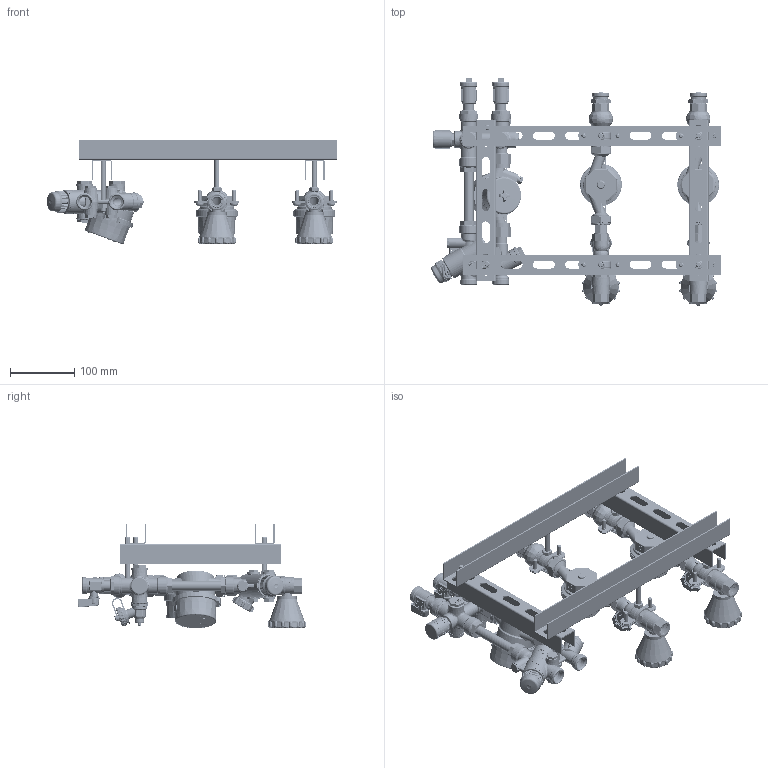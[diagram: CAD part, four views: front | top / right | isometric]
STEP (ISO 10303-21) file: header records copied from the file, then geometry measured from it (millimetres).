
FILE_DESCRIPTION(('STEP AP242'), '1');
FILE_NAME('覆.494726.014.000 捘 - VT.LB.V0.M0', '', ('UNSPECIFIED'), ('UNSPECIFIED'), 'C3D Converter', 'C3D Toolkit', '');
FILE_SCHEMA(('AP242_MANAGED_MODEL_BASED_3D_ENGINEERING_MIM_LF { 1 0 10303 442 1 1 4 }'));
Length unit declared in the file: millimetre
Products named in the file (220): ВР.494726.014.000 СБ; ВР.494726.012.002 СБ; ВР.494726.012.001-01; ВР.494726.002.001.002 СБ; ВР.731371.001; ВР.725140.002; ВР.753125.023; ВР.758421.046; ВР.753612.008; ВР.305319.007.000 СБ; ВР.753125.011; ВР.305319.008.000 СБ; ВР.753125.012; ВР.494726.012.001.001 СБ; ВР.731378.002; ВР.731378.002П; ВР.305319.003.000 СБ; ВР.752513.005; ВР.493619.002.000 СБ; ВР.753191.001; ВР.713161.001; ВР.712221.001; ВР.493619.002.001 СБ; ВР.753157.001; ВР.493619.002.002 СБ; ВР.716623.001; ВР.753512.018; ВР.494726.002.005 СБ; ВР.713791.001; ВР.407223.001.000 СБ; ВР.407223.001.002 СБ; ВР.731464.002; ВР.753182.016; ВР.714411.001; ВР.715113.003; ВР.407223.001.002.002 СБ; ВР.753192.014; ВР.715113.002; ВР.711141.021; ВР.713121.002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
Assembly tree (274 placements, depth 8):
  ВР.494726.014.000 СБ
    ВР.494726.012.002 СБ
      ВР.494726.012.001-01
        ВР.494726.002.001.002 СБ
          ВР.731371.001
          ВР.725140.002
          (unnamed)
            ВР.753125.023
            (unnamed)
          ВР.758421.046
          ВР.753612.008
          ВР.305319.007.000 СБ
            ВР.753125.011
            (unnamed)
          ВР.305319.008.000 СБ  x2
            ВР.753125.012
            (unnamed)
        ВР.494726.012.001.001 СБ
          ВР.731378.002
            ВР.731378.002П
          ВР.758421.046
          ВР.753612.008
          ВР.305319.003.000 СБ
            ВР.752513.005
            (unnamed)
          ВР.493619.002.000 СБ
            ВР.753191.001
            ВР.713161.001
            ВР.712221.001
            (unnamed)
            ВР.493619.002.001 СБ
              ВР.753157.001
              (unnamed)
              (unnamed)
              (unnamed)
            ВР.493619.002.002 СБ
              ВР.716623.001
              (unnamed)
            ВР.753512.018
          ВР.494726.002.005 СБ  x2
            ВР.713791.001
            (unnamed)
        ВР.407223.001.000 СБ
          ВР.407223.001.002 СБ
            ВР.731464.002
            ВР.753182.016
            ВР.714411.001
              ВР.715113.003
            ВР.407223.001.002.002 СБ
              ВР.753192.014
                ВР.715113.002
              ВР.711141.021
              ВР.713121.002
            ВР.711141.022
            ВР.407223.001.002.001 СБ
              ВР.753181.009
              ВР.713141.002
            (unnamed)
            ВР.711141.023
            ВР.711242.002
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Bounding box: 450.2 x 354.34 x 162.13 mm (x, y, z)
Volume: 1166296.1 mm3; surface area: 1011619.5 mm2
Topology: 325 solids, 328 shells, 26438 faces, 71428 edges, 46971 vertices
Faces by surface type: plane 10555, extrusion 6850, cylinder 5596, cone 1529, bspline 1048, torus 785, sphere 75
Full cylindrical faces by diameter (mm): 0.4 x4, 0.6 x23, 0.7 x2, 0.8 x12, 1 x10, 1.1 x308, 1.2 x22, 1.3 x15, 1.5 x53, 1.55 x2, 1.6 x22, 1.66 x4, 1.7 x3, 1.8 x10, 1.9 x5, 2 x33, 2.1 x4, 2.2 x11, 2.3 x2, 2.4 x2, 2.5 x11, 2.6 x1, 2.7 x2, 2.8 x1, 3 x70, 3.242 x2, 3.4 x34, 3.5 x6, 3.6 x5, 3.8 x5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
Entity records: 695914 total; most frequent: CARTESIAN_POINT 326685, ORIENTED_EDGE 76744, DIRECTION 59577, EDGE_CURVE 38377, VERTEX_POINT 26025, VECTOR 21493, AXIS2_PLACEMENT_3D 19042, EDGE_LOOP 17958
